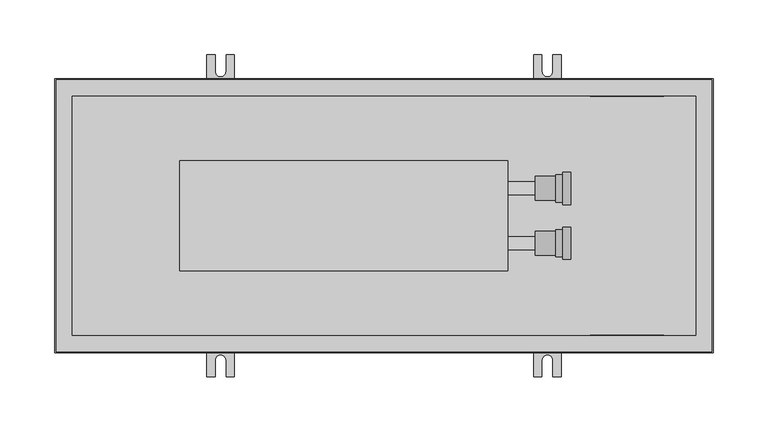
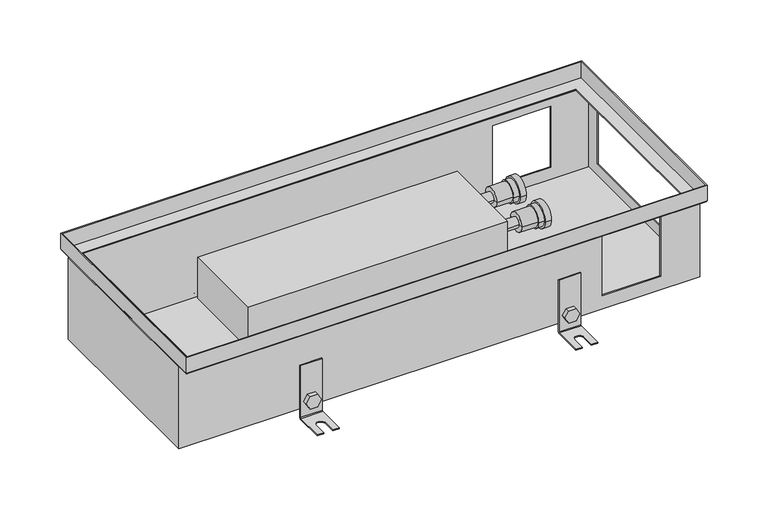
"""IFC4 building model written with IfcOpenShell, lengths in millimetres: proxy geometry, TECHNO_Конвектор встраиваемый_Usual_KVZ-250_85-105-120 : KVZ 250-120."""

from ifc_helpers import new_model, si_unit, point, frame, frame_2d, origin, place, context, project, spatial, polyline, circle_curve, ellipse_curve, trimmed, segment, composite_curve, outline, extrude, faceted_brep, source, transform, mapped, element, save
from ifc_brep_helpers import plane_surface, cylinder_surface, revolved_surface, advanced_brep


def mechanical_equipment_b3972e34(model_context):
    return source(origin(), model_context, "Body", "SolidModel", [
        extrude(outline(composite_curve([segment(trimmed(circle_curve(frame_2d((-110.5, 449.0)), 7.5), [point((-110.5, 441.5))], [point((-110.5, 456.5))], False, "CARTESIAN"), True, "CONTINUOUS"), segment(trimmed(circle_curve(frame_2d((-110.5, 449.0)), 7.5), [point((-110.5, 456.5))], [point((-110.5, 441.5))], False, "CARTESIAN"), True, "CONTINUOUS")], self_intersect=False)), frame((0.0, 110.2, 0.0), z_axis=(0.0, 1.0, 0.0), x_axis=(0.0, 0.0, 1.0)), (0.0, 0.0, 1.0), 1.5),
        extrude(outline(polyline([(-110.5, 440.339746), (-118.0, 444.669873), (-118.0, 453.330127), (-110.5, 457.660254), (-103.0, 453.330127), (-103.0, 444.669873), (-110.5, 440.339746)])), frame((0.0, 112.9, 0.0), z_axis=(0.0, 1.0, 0.0), x_axis=(0.0, 0.0, 1.0)), (0.0, 0.0, 1.0), 5.1),
        advanced_brep(
        [(461.5, 112.9, -65.5), (461.5, 111.7, -65.5), (461.5, 111.7, -128.5), (461.5, 113.7, -130.5), (461.5, 146.7, -130.5), (461.5, 146.7, -129.3), (461.5, 113.7, -129.3), (461.5, 112.9, -128.5), (436.5, 112.9, -65.5), (436.5, 112.9, -128.5), (436.5, 113.7, -129.3), (436.5, 146.7, -129.3), (436.5, 146.7, -130.5), (436.5, 113.7, -130.5), (436.5, 111.7, -128.5), (436.5, 111.7, -65.5), (454.0, 146.7, -129.3), (454.0, 131.7, -129.3), (444.0, 131.7, -129.3), (444.0, 146.7, -129.3), (444.0, 146.7, -130.5), (454.0, 146.7, -130.5), (444.0, 131.7, -130.5), (454.0, 131.7, -130.5)],
        [
            (0, 1),
            (1, 2),
            (2, 3, circle_curve(frame((461.5, 113.7, -128.5), z_axis=(1.0, 0.0, 0.0), x_axis=(0.0, 1.0, 0.0)), 2.0)),
            (3, 4),
            (4, 5),
            (5, 6),
            (6, 7, circle_curve(frame((461.5, 113.7, -128.5), z_axis=(-1.0, 0.0, 0.0), x_axis=(0.0, 1.0, 0.0)), 0.8)),
            (7, 0),
            (8, 9),
            (9, 10, circle_curve(frame((436.5, 113.7, -128.5), z_axis=(1.0, 0.0, 0.0), x_axis=(0.0, 1.0, 0.0)), 0.8)),
            (10, 11),
            (11, 12),
            (12, 13),
            (13, 14, circle_curve(frame((436.5, 113.7, -128.5), z_axis=(-1.0, 0.0, 0.0), x_axis=(0.0, 1.0, 0.0)), 2.0)),
            (14, 15),
            (15, 8),
            (7, 9),
            (8, 0),
            (6, 10),
            (5, 16),
            (16, 17),
            (17, 18, circle_curve(frame((449.0, 131.7, -129.3), z_axis=(0.0, 0.0, -1.0), x_axis=(1.0, 0.0, 0.0)), 5.0)),
            (18, 19),
            (19, 11),
            (19, 20),
            (20, 12),
            (4, 21),
            (21, 16),
            (3, 13),
            (20, 22),
            (22, 23, circle_curve(frame((449.0, 131.7, -130.5), z_axis=(0.0, 0.0, 1.0), x_axis=(1.0, 0.0, 0.0)), 5.0)),
            (23, 21),
            (2, 14),
            (1, 15),
            (18, 22),
            (23, 17),
        ],
        [
            plane_surface(frame((461.5, 112.9, -65.5), z_axis=(1.0, 0.0, 0.0), x_axis=(0.0, 0.0, -1.0))),
            plane_surface(frame((436.5, 112.9, -65.5), z_axis=(-1.0, 0.0, 0.0), x_axis=(0.0, 0.0, 1.0))),
            plane_surface(frame((461.5, 112.9, -65.5), z_axis=(0.0, 1.0, 0.0), x_axis=(-1.0, 0.0, 0.0))),
            revolved_surface(polyline([(436.5, 114.5, -128.5), (461.5, 114.5, -128.5)]), (436.5, 113.7, -128.5), (-1.0, 0.0, 0.0)),
            plane_surface(frame((461.5, 113.7, -129.3), z_axis=(0.0, 0.0, 1.0), x_axis=(-1.0, 0.0, 0.0))),
            plane_surface(frame((461.5, 146.7, -129.3), z_axis=(0.0, 1.0, 0.0), x_axis=(-1.0, 0.0, 0.0))),
            plane_surface(frame((461.5, 146.7, -130.5), z_axis=(0.0, 0.0, -1.0), x_axis=(-1.0, 0.0, 0.0))),
            cylinder_surface(frame((436.5, 113.7, -128.5), z_axis=(1.0, 0.0, 0.0), x_axis=(0.0, 1.0, 0.0)), 2.0),
            plane_surface(frame((461.5, 111.7, -128.5), z_axis=(0.0, -1.0, 0.0), x_axis=(-1.0, 0.0, 0.0))),
            plane_surface(frame((461.5, 111.7, -65.5), z_axis=(0.0, 0.0, 1.0), x_axis=(-1.0, 0.0, 0.0))),
            plane_surface(frame((444.0, 131.7, -129.3), z_axis=(1.0, 0.0, 0.0), x_axis=(0.0, 0.0, -1.0))),
            plane_surface(frame((454.0, 146.7, -129.3), z_axis=(-1.0, 0.0, 0.0), x_axis=(0.0, 0.0, -1.0))),
            revolved_surface(polyline([(454.0, 131.7, -129.3), (454.0, 131.7, -130.5)]), (449.0, 131.7, -130.5), (0.0, 0.0, 1.0)),
        ],
        [
            (0, [[1, 2, 3, 4, 5, 6, 7, 8]]),
            (1, [[9, 10, 11, 12, 13, 14, 15, 16]]),
            (2, [[17, -9, 18, -8]]),
            (3, [[19, -10, -17, -7]]),
            (4, [[20, 21, 22, 23, 24, -11, -19, -6]]),
            (5, [[-24, 25, 26, -12]]),
            (5, [[27, 28, -20, -5]]),
            (6, [[29, -13, -26, 30, 31, 32, -27, -4]]),
            (7, [[33, -14, -29, -3]]),
            (8, [[34, -15, -33, -2]]),
            (9, [[-18, -16, -34, -1]]),
            (10, [[-30, -25, -23, 35]]),
            (11, [[-21, -28, -32, 36]]),
            (12, [[-22, -36, -31, -35]]),
        ],
    ),
        extrude(outline(composite_curve([segment(trimmed(circle_curve(frame_2d((-110.5, 449.0)), 7.5), [point((-110.5, 441.5))], [point((-110.5, 456.5))], False, "CARTESIAN"), True, "CONTINUOUS"), segment(trimmed(circle_curve(frame_2d((-110.5, 449.0)), 7.5), [point((-110.5, 456.5))], [point((-110.5, 441.5))], False, "CARTESIAN"), True, "CONTINUOUS")], self_intersect=False)), frame((0.0, -111.7, 0.0), z_axis=(0.0, 1.0, 0.0), x_axis=(0.0, 0.0, 1.0)), (0.0, 0.0, 1.0), 1.5),
        extrude(outline(polyline([(-110.5, 440.339746), (-118.0, 444.669873), (-118.0, 453.330127), (-110.5, 457.660254), (-103.0, 453.330127), (-103.0, 444.669873), (-110.5, 440.339746)])), frame((0.0, -118.0, 0.0), z_axis=(0.0, 1.0, 0.0), x_axis=(0.0, 0.0, 1.0)), (0.0, 0.0, 1.0), 5.1),
        advanced_brep(
        [(461.5, -112.9, -65.5), (461.5, -112.9, -128.5), (461.5, -113.7, -129.3), (461.5, -146.7, -129.3), (461.5, -146.7, -130.5), (461.5, -113.7, -130.5), (461.5, -111.7, -128.5), (461.5, -111.7, -65.5), (436.5, -112.9, -65.5), (436.5, -111.7, -65.5), (436.5, -111.7, -128.5), (436.5, -113.7, -130.5), (436.5, -146.7, -130.5), (436.5, -146.7, -129.3), (436.5, -113.7, -129.3), (436.5, -112.9, -128.5), (444.0, -146.7, -129.3), (444.0, -131.7, -129.3), (454.0, -131.7, -129.3), (454.0, -146.7, -129.3), (454.0, -146.7, -130.5), (444.0, -146.7, -130.5), (454.0, -131.7, -130.5), (444.0, -131.7, -130.5)],
        [
            (0, 1),
            (1, 2, circle_curve(frame((461.5, -113.7, -128.5), z_axis=(-1.0, 0.0, 0.0), x_axis=(0.0, -1.0, 0.0)), 0.8)),
            (2, 3),
            (3, 4),
            (4, 5),
            (5, 6, circle_curve(frame((461.5, -113.7, -128.5), z_axis=(1.0, 0.0, 0.0), x_axis=(0.0, -1.0, 0.0)), 2.0)),
            (6, 7),
            (7, 0),
            (8, 9),
            (9, 10),
            (10, 11, circle_curve(frame((436.5, -113.7, -128.5), z_axis=(-1.0, 0.0, 0.0), x_axis=(0.0, -1.0, 0.0)), 2.0)),
            (11, 12),
            (12, 13),
            (13, 14),
            (14, 15, circle_curve(frame((436.5, -113.7, -128.5), z_axis=(1.0, 0.0, 0.0), x_axis=(0.0, -1.0, 0.0)), 0.8)),
            (15, 8),
            (0, 8),
            (15, 1),
            (14, 2),
            (13, 16),
            (16, 17),
            (17, 18, circle_curve(frame((449.0, -131.7, -129.3), z_axis=(0.0, 0.0, -1.0), x_axis=(1.0, 0.0, 0.0)), 5.0)),
            (18, 19),
            (19, 3),
            (19, 20),
            (20, 4),
            (12, 21),
            (21, 16),
            (20, 22),
            (22, 23, circle_curve(frame((449.0, -131.7, -130.5), z_axis=(0.0, 0.0, 1.0), x_axis=(1.0, 0.0, 0.0)), 5.0)),
            (23, 21),
            (11, 5),
            (10, 6),
            (9, 7),
            (23, 17),
            (18, 22),
        ],
        [
            plane_surface(frame((461.5, -112.9, -65.5), z_axis=(1.0, 0.0, 0.0), x_axis=(0.0, 0.0, -1.0))),
            plane_surface(frame((436.5, -112.9, -65.5), z_axis=(-1.0, 0.0, 0.0), x_axis=(0.0, 0.0, 1.0))),
            plane_surface(frame((461.5, -112.9, -65.5), z_axis=(0.0, -1.0, 0.0), x_axis=(-1.0, 0.0, 0.0))),
            revolved_surface(polyline([(436.5, -114.5, -128.5), (461.5, -114.5, -128.5)]), (436.5, -113.7, -128.5), (-1.0, 0.0, 0.0)),
            plane_surface(frame((461.5, -113.7, -129.3), z_axis=(0.0, 0.0, 1.0), x_axis=(-1.0, 0.0, 0.0))),
            plane_surface(frame((461.5, -146.7, -129.3), z_axis=(0.0, -1.0, 0.0), x_axis=(-1.0, 0.0, 0.0))),
            plane_surface(frame((461.5, -146.7, -130.5), z_axis=(0.0, 0.0, -1.0), x_axis=(-1.0, 0.0, 0.0))),
            cylinder_surface(frame((436.5, -113.7, -128.5), z_axis=(1.0, 0.0, 0.0), x_axis=(0.0, -1.0, 0.0)), 2.0),
            plane_surface(frame((461.5, -111.7, -128.5), z_axis=(0.0, 1.0, 0.0), x_axis=(-1.0, 0.0, 0.0))),
            plane_surface(frame((461.5, -111.7, -65.5), z_axis=(0.0, 0.0, 1.0), x_axis=(-1.0, 0.0, 0.0))),
            plane_surface(frame((444.0, -131.7, -129.3), z_axis=(1.0, 0.0, 0.0), x_axis=(0.0, 0.0, -1.0))),
            plane_surface(frame((454.0, -146.7, -129.3), z_axis=(-1.0, 0.0, 0.0), x_axis=(0.0, 0.0, -1.0))),
            revolved_surface(polyline([(454.0, -131.7, -129.3), (454.0, -131.7, -130.5)]), (449.0, -131.7, -130.5), (0.0, 0.0, 1.0)),
        ],
        [
            (0, [[1, 2, 3, 4, 5, 6, 7, 8]]),
            (1, [[9, 10, 11, 12, 13, 14, 15, 16]]),
            (2, [[-1, 17, -16, 18]]),
            (3, [[-2, -18, -15, 19]]),
            (4, [[-3, -19, -14, 20, 21, 22, 23, 24]]),
            (5, [[-4, -24, 25, 26]]),
            (5, [[-13, 27, 28, -20]]),
            (6, [[-5, -26, 29, 30, 31, -27, -12, 32]]),
            (7, [[-6, -32, -11, 33]]),
            (8, [[-7, -33, -10, 34]]),
            (9, [[-8, -34, -9, -17]]),
            (10, [[35, -21, -28, -31]]),
            (11, [[36, -29, -25, -23]]),
            (12, [[-35, -30, -36, -22]]),
        ],
    ),
        extrude(outline(composite_curve([segment(trimmed(circle_curve(frame_2d((-110.5, 151.0)), 7.5), [point((-110.5, 143.5))], [point((-110.5, 158.5))], False, "CARTESIAN"), True, "CONTINUOUS"), segment(trimmed(circle_curve(frame_2d((-110.5, 151.0)), 7.5), [point((-110.5, 158.5))], [point((-110.5, 143.5))], False, "CARTESIAN"), True, "CONTINUOUS")], self_intersect=False)), frame((0.0, 110.2, 0.0), z_axis=(0.0, 1.0, 0.0), x_axis=(0.0, 0.0, 1.0)), (0.0, 0.0, 1.0), 1.5),
        extrude(outline(polyline([(-110.5, 142.339746), (-118.0, 146.669873), (-118.0, 155.330127), (-110.5, 159.660254), (-103.0, 155.330127), (-103.0, 146.669873), (-110.5, 142.339746)])), frame((0.0, 112.9, 0.0), z_axis=(0.0, 1.0, 0.0), x_axis=(0.0, 0.0, 1.0)), (0.0, 0.0, 1.0), 5.1),
        advanced_brep(
        [(163.5, 112.9, -65.5), (163.5, 111.7, -65.5), (163.5, 111.7, -128.5), (163.5, 113.7, -130.5), (163.5, 146.7, -130.5), (163.5, 146.7, -129.3), (163.5, 113.7, -129.3), (163.5, 112.9, -128.5), (138.5, 112.9, -65.5), (138.5, 112.9, -128.5), (138.5, 113.7, -129.3), (138.5, 146.7, -129.3), (138.5, 146.7, -130.5), (138.5, 113.7, -130.5), (138.5, 111.7, -128.5), (138.5, 111.7, -65.5), (156.0, 146.7, -129.3), (156.0, 131.7, -129.3), (146.0, 131.7, -129.3), (146.0, 146.7, -129.3), (146.0, 146.7, -130.5), (156.0, 146.7, -130.5), (146.0, 131.7, -130.5), (156.0, 131.7, -130.5)],
        [
            (0, 1),
            (1, 2),
            (2, 3, circle_curve(frame((163.5, 113.7, -128.5), z_axis=(1.0, 0.0, 0.0), x_axis=(0.0, 1.0, 0.0)), 2.0)),
            (3, 4),
            (4, 5),
            (5, 6),
            (6, 7, circle_curve(frame((163.5, 113.7, -128.5), z_axis=(-1.0, 0.0, 0.0), x_axis=(0.0, 1.0, 0.0)), 0.8)),
            (7, 0),
            (8, 9),
            (9, 10, circle_curve(frame((138.5, 113.7, -128.5), z_axis=(1.0, 0.0, 0.0), x_axis=(0.0, 1.0, 0.0)), 0.8)),
            (10, 11),
            (11, 12),
            (12, 13),
            (13, 14, circle_curve(frame((138.5, 113.7, -128.5), z_axis=(-1.0, 0.0, 0.0), x_axis=(0.0, 1.0, 0.0)), 2.0)),
            (14, 15),
            (15, 8),
            (7, 9),
            (8, 0),
            (6, 10),
            (5, 16),
            (16, 17),
            (17, 18, circle_curve(frame((151.0, 131.7, -129.3), z_axis=(0.0, 0.0, -1.0), x_axis=(1.0, 0.0, 0.0)), 5.0)),
            (18, 19),
            (19, 11),
            (19, 20),
            (20, 12),
            (4, 21),
            (21, 16),
            (3, 13),
            (20, 22),
            (22, 23, circle_curve(frame((151.0, 131.7, -130.5), z_axis=(0.0, 0.0, 1.0), x_axis=(1.0, 0.0, 0.0)), 5.0)),
            (23, 21),
            (2, 14),
            (1, 15),
            (18, 22),
            (23, 17),
        ],
        [
            plane_surface(frame((163.5, 112.9, -65.5), z_axis=(1.0, 0.0, 0.0), x_axis=(0.0, 0.0, -1.0))),
            plane_surface(frame((138.5, 112.9, -65.5), z_axis=(-1.0, 0.0, 0.0), x_axis=(0.0, 0.0, 1.0))),
            plane_surface(frame((163.5, 112.9, -65.5), z_axis=(0.0, 1.0, 0.0), x_axis=(-1.0, 0.0, 0.0))),
            revolved_surface(polyline([(138.5, 114.5, -128.5), (163.5, 114.5, -128.5)]), (138.5, 113.7, -128.5), (-1.0, 0.0, 0.0)),
            plane_surface(frame((163.5, 113.7, -129.3), z_axis=(0.0, 0.0, 1.0), x_axis=(-1.0, 0.0, 0.0))),
            plane_surface(frame((163.5, 146.7, -129.3), z_axis=(0.0, 1.0, 0.0), x_axis=(-1.0, 0.0, 0.0))),
            plane_surface(frame((163.5, 146.7, -130.5), z_axis=(0.0, 0.0, -1.0), x_axis=(-1.0, 0.0, 0.0))),
            cylinder_surface(frame((138.5, 113.7, -128.5), z_axis=(1.0, 0.0, 0.0), x_axis=(0.0, 1.0, 0.0)), 2.0),
            plane_surface(frame((163.5, 111.7, -128.5), z_axis=(0.0, -1.0, 0.0), x_axis=(-1.0, 0.0, 0.0))),
            plane_surface(frame((163.5, 111.7, -65.5), z_axis=(0.0, 0.0, 1.0), x_axis=(-1.0, 0.0, 0.0))),
            plane_surface(frame((146.0, 131.7, -129.3), z_axis=(1.0, 0.0, 0.0), x_axis=(0.0, 0.0, -1.0))),
            plane_surface(frame((156.0, 146.7, -129.3), z_axis=(-1.0, 0.0, 0.0), x_axis=(0.0, 0.0, -1.0))),
            revolved_surface(polyline([(156.0, 131.7, -129.3), (156.0, 131.7, -130.5)]), (151.0, 131.7, -130.5), (0.0, 0.0, 1.0)),
        ],
        [
            (0, [[1, 2, 3, 4, 5, 6, 7, 8]]),
            (1, [[9, 10, 11, 12, 13, 14, 15, 16]]),
            (2, [[17, -9, 18, -8]]),
            (3, [[19, -10, -17, -7]]),
            (4, [[20, 21, 22, 23, 24, -11, -19, -6]]),
            (5, [[-24, 25, 26, -12]]),
            (5, [[27, 28, -20, -5]]),
            (6, [[29, -13, -26, 30, 31, 32, -27, -4]]),
            (7, [[33, -14, -29, -3]]),
            (8, [[34, -15, -33, -2]]),
            (9, [[-18, -16, -34, -1]]),
            (10, [[-30, -25, -23, 35]]),
            (11, [[-21, -28, -32, 36]]),
            (12, [[-22, -36, -31, -35]]),
        ],
    ),
        extrude(outline(composite_curve([segment(trimmed(circle_curve(frame_2d((-110.5, 151.0)), 7.5), [point((-110.5, 143.5))], [point((-110.5, 158.5))], False, "CARTESIAN"), True, "CONTINUOUS"), segment(trimmed(circle_curve(frame_2d((-110.5, 151.0)), 7.5), [point((-110.5, 158.5))], [point((-110.5, 143.5))], False, "CARTESIAN"), True, "CONTINUOUS")], self_intersect=False)), frame((0.0, -111.7, 0.0), z_axis=(0.0, 1.0, 0.0), x_axis=(0.0, 0.0, 1.0)), (0.0, 0.0, 1.0), 1.5),
        extrude(outline(polyline([(-110.5, 142.339746), (-118.0, 146.669873), (-118.0, 155.330127), (-110.5, 159.660254), (-103.0, 155.330127), (-103.0, 146.669873), (-110.5, 142.339746)])), frame((0.0, -118.0, 0.0), z_axis=(0.0, 1.0, 0.0), x_axis=(0.0, 0.0, 1.0)), (0.0, 0.0, 1.0), 5.1),
        advanced_brep(
        [(163.5, -112.9, -65.5), (163.5, -112.9, -128.5), (163.5, -113.7, -129.3), (163.5, -146.7, -129.3), (163.5, -146.7, -130.5), (163.5, -113.7, -130.5), (163.5, -111.7, -128.5), (163.5, -111.7, -65.5), (138.5, -112.9, -65.5), (138.5, -111.7, -65.5), (138.5, -111.7, -128.5), (138.5, -113.7, -130.5), (138.5, -146.7, -130.5), (138.5, -146.7, -129.3), (138.5, -113.7, -129.3), (138.5, -112.9, -128.5), (146.0, -146.7, -129.3), (146.0, -131.7, -129.3), (156.0, -131.7, -129.3), (156.0, -146.7, -129.3), (156.0, -146.7, -130.5), (146.0, -146.7, -130.5), (156.0, -131.7, -130.5), (146.0, -131.7, -130.5)],
        [
            (0, 1),
            (1, 2, circle_curve(frame((163.5, -113.7, -128.5), z_axis=(-1.0, 0.0, 0.0), x_axis=(0.0, -1.0, 0.0)), 0.8)),
            (2, 3),
            (3, 4),
            (4, 5),
            (5, 6, circle_curve(frame((163.5, -113.7, -128.5), z_axis=(1.0, 0.0, 0.0), x_axis=(0.0, -1.0, 0.0)), 2.0)),
            (6, 7),
            (7, 0),
            (8, 9),
            (9, 10),
            (10, 11, circle_curve(frame((138.5, -113.7, -128.5), z_axis=(-1.0, 0.0, 0.0), x_axis=(0.0, -1.0, 0.0)), 2.0)),
            (11, 12),
            (12, 13),
            (13, 14),
            (14, 15, circle_curve(frame((138.5, -113.7, -128.5), z_axis=(1.0, 0.0, 0.0), x_axis=(0.0, -1.0, 0.0)), 0.8)),
            (15, 8),
            (0, 8),
            (15, 1),
            (14, 2),
            (13, 16),
            (16, 17),
            (17, 18, circle_curve(frame((151.0, -131.7, -129.3), z_axis=(0.0, 0.0, -1.0), x_axis=(1.0, 0.0, 0.0)), 5.0)),
            (18, 19),
            (19, 3),
            (19, 20),
            (20, 4),
            (12, 21),
            (21, 16),
            (20, 22),
            (22, 23, circle_curve(frame((151.0, -131.7, -130.5), z_axis=(0.0, 0.0, 1.0), x_axis=(1.0, 0.0, 0.0)), 5.0)),
            (23, 21),
            (11, 5),
            (10, 6),
            (9, 7),
            (23, 17),
            (18, 22),
        ],
        [
            plane_surface(frame((163.5, -112.9, -65.5), z_axis=(1.0, 0.0, 0.0), x_axis=(0.0, 0.0, -1.0))),
            plane_surface(frame((138.5, -112.9, -65.5), z_axis=(-1.0, 0.0, 0.0), x_axis=(0.0, 0.0, 1.0))),
            plane_surface(frame((163.5, -112.9, -65.5), z_axis=(0.0, -1.0, 0.0), x_axis=(-1.0, 0.0, 0.0))),
            revolved_surface(polyline([(138.5, -114.5, -128.5), (163.5, -114.5, -128.5)]), (138.5, -113.7, -128.5), (-1.0, 0.0, 0.0)),
            plane_surface(frame((163.5, -113.7, -129.3), z_axis=(0.0, 0.0, 1.0), x_axis=(-1.0, 0.0, 0.0))),
            plane_surface(frame((163.5, -146.7, -129.3), z_axis=(0.0, -1.0, 0.0), x_axis=(-1.0, 0.0, 0.0))),
            plane_surface(frame((163.5, -146.7, -130.5), z_axis=(0.0, 0.0, -1.0), x_axis=(-1.0, 0.0, 0.0))),
            cylinder_surface(frame((138.5, -113.7, -128.5), z_axis=(1.0, 0.0, 0.0), x_axis=(0.0, -1.0, 0.0)), 2.0),
            plane_surface(frame((163.5, -111.7, -128.5), z_axis=(0.0, 1.0, 0.0), x_axis=(-1.0, 0.0, 0.0))),
            plane_surface(frame((163.5, -111.7, -65.5), z_axis=(0.0, 0.0, 1.0), x_axis=(-1.0, 0.0, 0.0))),
            plane_surface(frame((146.0, -131.7, -129.3), z_axis=(1.0, 0.0, 0.0), x_axis=(0.0, 0.0, -1.0))),
            plane_surface(frame((156.0, -146.7, -129.3), z_axis=(-1.0, 0.0, 0.0), x_axis=(0.0, 0.0, -1.0))),
            revolved_surface(polyline([(156.0, -131.7, -129.3), (156.0, -131.7, -130.5)]), (151.0, -131.7, -130.5), (0.0, 0.0, 1.0)),
        ],
        [
            (0, [[1, 2, 3, 4, 5, 6, 7, 8]]),
            (1, [[9, 10, 11, 12, 13, 14, 15, 16]]),
            (2, [[-1, 17, -16, 18]]),
            (3, [[-2, -18, -15, 19]]),
            (4, [[-3, -19, -14, 20, 21, 22, 23, 24]]),
            (5, [[-4, -24, 25, 26]]),
            (5, [[-13, 27, 28, -20]]),
            (6, [[-5, -26, 29, 30, 31, -27, -12, 32]]),
            (7, [[-6, -32, -11, 33]]),
            (8, [[-7, -33, -10, 34]]),
            (9, [[-8, -34, -9, -17]]),
            (10, [[35, -21, -28, -31]]),
            (11, [[36, -29, -25, -23]]),
            (12, [[-35, -30, -36, -22]]),
        ],
    ),
        extrude(outline(polyline([(413.0, 50.0), (413.0, -50.0), (114.0, -50.0), (114.0, 50.0), (413.0, 50.0)])), frame((0.0, 0.0, -73.5), z_axis=(0.0, 0.0, 1.0), x_axis=(1.0, 0.0, 0.0)), (0.0, 0.0, 1.0), 50.0),
        advanced_brep(
        [(438.0, 25.0, -48.5), (438.0, 36.0, -48.5), (438.0, 14.0, -48.5), (456.5, 36.0, -48.5), (456.5, 14.0, -48.5), (456.5, 37.5, -48.5), (456.5, 12.5, -48.5), (463.0, 37.5, -48.5), (463.0, 12.5, -48.5), (463.0, 39.7, -48.5), (463.0, 10.3, -48.5), (470.0, 39.7, -48.5), (470.0, 10.3, -48.5), (470.0, 25.0, -48.5)],
        [
            (0, 1),
            (1, 2, circle_curve(frame((438.0, 25.0, -48.5), z_axis=(-1.0, 0.0, 0.0), x_axis=(0.0, 1.0, 0.0)), 11.0)),
            (2, 0),
            (2, 1, circle_curve(frame((438.0, 25.0, -48.5), z_axis=(-1.0, 0.0, 0.0), x_axis=(0.0, 1.0, 0.0)), 11.0)),
            (1, 3),
            (3, 4, circle_curve(frame((456.5, 25.0, -48.5), z_axis=(-1.0, 0.0, 0.0), x_axis=(0.0, 1.0, 0.0)), 11.0)),
            (4, 2),
            (4, 3, circle_curve(frame((456.5, 25.0, -48.5), z_axis=(-1.0, 0.0, 0.0), x_axis=(0.0, 1.0, 0.0)), 11.0)),
            (3, 5),
            (5, 6, circle_curve(frame((456.5, 25.0, -48.5), z_axis=(-1.0, 0.0, 0.0), x_axis=(0.0, 1.0, 0.0)), 12.5)),
            (6, 4),
            (6, 5, circle_curve(frame((456.5, 25.0, -48.5), z_axis=(-1.0, 0.0, 0.0), x_axis=(0.0, 1.0, 0.0)), 12.5)),
            (5, 7),
            (7, 8, circle_curve(frame((463.0, 25.0, -48.5), z_axis=(-1.0, 0.0, 0.0), x_axis=(0.0, 1.0, 0.0)), 12.5)),
            (8, 6),
            (8, 7, circle_curve(frame((463.0, 25.0, -48.5), z_axis=(-1.0, 0.0, 0.0), x_axis=(0.0, 1.0, 0.0)), 12.5)),
            (7, 9),
            (9, 10, circle_curve(frame((463.0, 25.0, -48.5), z_axis=(-1.0, 0.0, 0.0), x_axis=(0.0, 1.0, 0.0)), 14.7)),
            (10, 8),
            (10, 9, circle_curve(frame((463.0, 25.0, -48.5), z_axis=(-1.0, 0.0, 0.0), x_axis=(0.0, 1.0, 0.0)), 14.7)),
            (9, 11),
            (11, 12, circle_curve(frame((470.0, 25.0, -48.5), z_axis=(-1.0, 0.0, 0.0), x_axis=(0.0, 1.0, 0.0)), 14.7)),
            (12, 10),
            (12, 11, circle_curve(frame((470.0, 25.0, -48.5), z_axis=(-1.0, 0.0, 0.0), x_axis=(0.0, 1.0, 0.0)), 14.7)),
            (11, 13),
            (13, 12),
        ],
        [
            plane_surface(frame((438.0, 25.0, -48.5), z_axis=(-1.0, 0.0, 0.0), x_axis=(0.0, 1.0, 0.0))),
            cylinder_surface(frame((470.0, 25.0, -48.5), z_axis=(-1.0, 0.0, 0.0), x_axis=(0.0, 1.0, 0.0)), 11.0),
            plane_surface(frame((456.5, 25.0, -48.5), z_axis=(-1.0, 0.0, 0.0), x_axis=(0.0, 1.0, 0.0))),
            cylinder_surface(frame((470.0, 25.0, -48.5), z_axis=(-1.0, 0.0, 0.0), x_axis=(0.0, 1.0, 0.0)), 12.5),
            plane_surface(frame((463.0, 25.0, -48.5), z_axis=(-1.0, 0.0, 0.0), x_axis=(0.0, 1.0, 0.0))),
            cylinder_surface(frame((470.0, 25.0, -48.5), z_axis=(-1.0, 0.0, 0.0), x_axis=(0.0, 1.0, 0.0)), 14.7),
            plane_surface(frame((470.0, 25.0, -48.5), z_axis=(1.0, 0.0, 0.0), x_axis=(0.0, 1.0, 0.0))),
        ],
        [
            (0, [[1, 2, 3]]),
            (0, [[-3, 4, -1]]),
            (1, [[-2, 5, 6, 7]]),
            (1, [[-4, -7, 8, -5]]),
            (2, [[-6, 9, 10, 11]]),
            (2, [[-8, -11, 12, -9]]),
            (3, [[-10, 13, 14, 15]]),
            (3, [[-12, -15, 16, -13]]),
            (4, [[-14, 17, 18, 19]]),
            (4, [[-16, -19, 20, -17]]),
            (5, [[-18, 21, 22, 23]]),
            (5, [[-20, -23, 24, -21]]),
            (6, [[-22, 25, 26]]),
            (6, [[-24, -26, -25]]),
        ],
    ),
        advanced_brep(
        [(438.0, -25.0, -48.5), (438.0, -14.0, -48.5), (438.0, -36.0, -48.5), (456.5, -14.0, -48.5), (456.5, -36.0, -48.5), (456.5, -12.5, -48.5), (456.5, -37.5, -48.5), (463.0, -12.5, -48.5), (463.0, -37.5, -48.5), (463.0, -10.3, -48.5), (463.0, -39.7, -48.5), (470.0, -10.3, -48.5), (470.0, -39.7, -48.5), (470.0, -25.0, -48.5)],
        [
            (0, 1),
            (1, 2, circle_curve(frame((438.0, -25.0, -48.5), z_axis=(-1.0, 0.0, 0.0), x_axis=(0.0, 1.0, 0.0)), 11.0)),
            (2, 0),
            (2, 1, circle_curve(frame((438.0, -25.0, -48.5), z_axis=(-1.0, 0.0, 0.0), x_axis=(0.0, 1.0, 0.0)), 11.0)),
            (1, 3),
            (3, 4, circle_curve(frame((456.5, -25.0, -48.5), z_axis=(-1.0, 0.0, 0.0), x_axis=(0.0, 1.0, 0.0)), 11.0)),
            (4, 2),
            (4, 3, circle_curve(frame((456.5, -25.0, -48.5), z_axis=(-1.0, 0.0, 0.0), x_axis=(0.0, 1.0, 0.0)), 11.0)),
            (3, 5),
            (5, 6, circle_curve(frame((456.5, -25.0, -48.5), z_axis=(-1.0, 0.0, 0.0), x_axis=(0.0, 1.0, 0.0)), 12.5)),
            (6, 4),
            (6, 5, circle_curve(frame((456.5, -25.0, -48.5), z_axis=(-1.0, 0.0, 0.0), x_axis=(0.0, 1.0, 0.0)), 12.5)),
            (5, 7),
            (7, 8, circle_curve(frame((463.0, -25.0, -48.5), z_axis=(-1.0, 0.0, 0.0), x_axis=(0.0, 1.0, 0.0)), 12.5)),
            (8, 6),
            (8, 7, circle_curve(frame((463.0, -25.0, -48.5), z_axis=(-1.0, 0.0, 0.0), x_axis=(0.0, 1.0, 0.0)), 12.5)),
            (7, 9),
            (9, 10, circle_curve(frame((463.0, -25.0, -48.5), z_axis=(-1.0, 0.0, 0.0), x_axis=(0.0, 1.0, 0.0)), 14.7)),
            (10, 8),
            (10, 9, circle_curve(frame((463.0, -25.0, -48.5), z_axis=(-1.0, 0.0, 0.0), x_axis=(0.0, 1.0, 0.0)), 14.7)),
            (9, 11),
            (11, 12, circle_curve(frame((470.0, -25.0, -48.5), z_axis=(-1.0, 0.0, 0.0), x_axis=(0.0, 1.0, 0.0)), 14.7)),
            (12, 10),
            (12, 11, circle_curve(frame((470.0, -25.0, -48.5), z_axis=(-1.0, 0.0, 0.0), x_axis=(0.0, 1.0, 0.0)), 14.7)),
            (11, 13),
            (13, 12),
        ],
        [
            plane_surface(frame((438.0, -25.0, -48.5), z_axis=(-1.0, 0.0, 0.0), x_axis=(0.0, 1.0, 0.0))),
            cylinder_surface(frame((470.0, -25.0, -48.5), z_axis=(-1.0, 0.0, 0.0), x_axis=(0.0, 1.0, 0.0)), 11.0),
            plane_surface(frame((456.5, -25.0, -48.5), z_axis=(-1.0, 0.0, 0.0), x_axis=(0.0, 1.0, 0.0))),
            cylinder_surface(frame((470.0, -25.0, -48.5), z_axis=(-1.0, 0.0, 0.0), x_axis=(0.0, 1.0, 0.0)), 12.5),
            plane_surface(frame((463.0, -25.0, -48.5), z_axis=(-1.0, 0.0, 0.0), x_axis=(0.0, 1.0, 0.0))),
            cylinder_surface(frame((470.0, -25.0, -48.5), z_axis=(-1.0, 0.0, 0.0), x_axis=(0.0, 1.0, 0.0)), 14.7),
            plane_surface(frame((470.0, -25.0, -48.5), z_axis=(1.0, 0.0, 0.0), x_axis=(0.0, 1.0, 0.0))),
        ],
        [
            (0, [[1, 2, 3]]),
            (0, [[-3, 4, -1]]),
            (1, [[-2, 5, 6, 7]]),
            (1, [[-4, -7, 8, -5]]),
            (2, [[-6, 9, 10, 11]]),
            (2, [[-8, -11, 12, -9]]),
            (3, [[-10, 13, 14, 15]]),
            (3, [[-12, -15, 16, -13]]),
            (4, [[-14, 17, 18, 19]]),
            (4, [[-16, -19, 20, -17]]),
            (5, [[-18, 21, 22, 23]]),
            (5, [[-20, -23, 24, -21]]),
            (6, [[-22, 25, 26]]),
            (6, [[-24, -26, -25]]),
        ],
    ),
        extrude(outline(composite_curve([segment(trimmed(circle_curve(frame_2d((25.0, -48.5)), 6.0), [point((19.0, -48.5))], [point((31.0, -48.5))], False, "CARTESIAN"), True, "CONTINUOUS"), segment(trimmed(circle_curve(frame_2d((25.0, -48.5)), 6.0), [point((31.0, -48.5))], [point((19.0, -48.5))], False, "CARTESIAN"), True, "CONTINUOUS")], self_intersect=False)), frame((413.0, 0.0, 0.0), z_axis=(1.0, 0.0, 0.0), x_axis=(0.0, 1.0, 0.0)), (0.0, 0.0, 1.0), 25.0),
        extrude(outline(composite_curve([segment(trimmed(circle_curve(frame_2d((-25.0, -48.5)), 6.0), [point((-31.0, -48.5))], [point((-19.0, -48.5))], False, "CARTESIAN"), True, "CONTINUOUS"), segment(trimmed(circle_curve(frame_2d((-25.0, -48.5)), 6.0), [point((-19.0, -48.5))], [point((-31.0, -48.5))], False, "CARTESIAN"), True, "CONTINUOUS")], self_intersect=False)), frame((413.0, 0.0, 0.0), z_axis=(1.0, 0.0, 0.0), x_axis=(0.0, 1.0, 0.0)), (0.0, 0.0, 1.0), 25.0),
        faceted_brep([(598.8, -109.0, -118.8), (598.8, 109.0, -118.8), (1.2, 109.0, -118.8), (1.2, -109.0, -118.8), (0.0, -110.2, -120.0), (0.0, 110.2, -120.0), (600.0, 110.2, -120.0), (600.0, -110.2, -120.0), (600.0, -110.2, -20.5), (0.0, -110.2, -20.5), (488.0, -110.2, -30.0), (555.0, -110.2, -30.0), (555.0, -110.2, -104.0), (488.0, -110.2, -104.0), (600.0, 110.2, -20.5), (600.0, 92.0, -23.0), (600.0, 92.0, -105.0), (600.0, -92.0, -105.0), (600.0, -92.0, -23.0), (0.0, 110.2, -20.5), (555.0, 110.2, -30.0), (488.0, 110.2, -30.0), (488.0, 110.2, -104.0), (555.0, 110.2, -104.0), (598.8, -109.0, -20.5), (598.8, 109.0, -20.5), (598.8, 92.0, -105.0), (598.8, 92.0, -23.0), (598.8, -92.0, -23.0), (598.8, -92.0, -105.0), (1.2, -109.0, -20.5), (555.0, -109.0, -30.0), (488.0, -109.0, -30.0), (488.0, -109.0, -104.0), (555.0, -109.0, -104.0), (1.2, 109.0, -20.5), (488.0, 109.0, -30.0), (555.0, 109.0, -30.0), (555.0, 109.0, -104.0), (488.0, 109.0, -104.0)], [[[0, 1, 2, 3]], [[4, 5, 6, 7]], [[4, 7, 8, 9], [10, 11, 12, 13]], [[7, 6, 14, 8], [15, 16, 17, 18]], [[6, 5, 19, 14], [20, 21, 22, 23]], [[5, 4, 9, 19]], [[24, 25, 1, 0], [26, 27, 28, 29]], [[30, 24, 0, 3], [31, 32, 33, 34]], [[35, 30, 3, 2]], [[25, 35, 2, 1], [36, 37, 38, 39]], [[8, 14, 19, 9], [25, 24, 30, 35]], [[31, 11, 10, 32]], [[20, 37, 36, 21]], [[32, 10, 13, 33]], [[21, 36, 39, 22]], [[33, 13, 12, 34]], [[22, 39, 38, 23]], [[11, 31, 34, 12]], [[37, 20, 23, 38]], [[15, 27, 26, 16]], [[27, 15, 18, 28]], [[28, 18, 17, 29]], [[16, 26, 29, 17]]]),
        advanced_brep(
        [(584.0, 109.0, -19.3), (584.0, 109.0, -20.5), (584.0, -109.0, -20.5), (584.0, -109.0, -19.3), (598.8, 123.8, 0.0), (598.8, 123.8, -19.3), (598.8, -123.8, -19.3), (598.8, -123.8, 0.0), (600.0, 125.0, -18.5), (600.0, 125.0, 0.0), (600.0, -125.0, 0.0), (600.0, -125.0, -18.5), (16.0, -109.0, -20.5), (16.0, -109.0, -19.3), (1.2, -123.8, -19.3), (1.2, -123.8, 0.0), (0.0, -125.0, 0.0), (0.0, -125.0, -18.5), (16.0, 109.0, -20.5), (16.0, 109.0, -19.3), (1.2, 123.8, -19.3), (1.2, 123.8, 0.0), (0.0, 125.0, 0.0), (0.0, 125.0, -18.5), (598.0, -123.0, -20.5), (2.0, -123.0, -20.5), (2.0, 123.0, -20.5), (598.0, 123.0, -20.5)],
        [
            (0, 1),
            (1, 2),
            (2, 3),
            (3, 0),
            (4, 5),
            (5, 6),
            (6, 7),
            (7, 4),
            (8, 9),
            (9, 10),
            (10, 11),
            (11, 8),
            (2, 12),
            (12, 13),
            (13, 3),
            (6, 14),
            (14, 15),
            (15, 7),
            (10, 16),
            (16, 17),
            (17, 11),
            (12, 18),
            (18, 19),
            (19, 13),
            (14, 20),
            (20, 21),
            (21, 15),
            (16, 22),
            (22, 23),
            (23, 17),
            (24, 25),
            (25, 26),
            (26, 27),
            (27, 24),
            (1, 18),
            (0, 19),
            (5, 20),
            (4, 21),
            (9, 22),
            (8, 23),
            (27, 8, ellipse_curve(frame((598.0, 123.0, -18.5), z_axis=(0.7071067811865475, -0.7071067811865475, 0.0), x_axis=(0.7071067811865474, 0.7071067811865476, 0.0)), 2.8284271, 2.0)),
            (11, 24, ellipse_curve(frame((598.0, -123.0, -18.5), z_axis=(0.7071067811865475, 0.7071067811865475, 0.0), x_axis=(-0.7071067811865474, 0.7071067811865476, 0.0)), 2.8284271, 2.0)),
            (17, 25, ellipse_curve(frame((2.0, -123.0, -18.5), z_axis=(0.7071067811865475, -0.7071067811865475, 0.0), x_axis=(0.7071067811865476, 0.7071067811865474, 0.0)), 2.8284271, 2.0)),
            (23, 26, ellipse_curve(frame((2.0, 123.0, -18.5), z_axis=(-0.7071067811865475, -0.7071067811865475, 0.0), x_axis=(0.7071067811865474, -0.7071067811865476, 0.0)), 2.8284271, 2.0)),
        ],
        [
            plane_surface(frame((584.0, 109.0, -20.5), z_axis=(-1.0, 0.0, 0.0), x_axis=(0.0, -1.0, 0.0))),
            plane_surface(frame((598.8, 123.8, -19.3), z_axis=(-1.0, 0.0, 0.0), x_axis=(0.0, -1.0, 0.0))),
            plane_surface(frame((600.0, 125.0, 0.0), z_axis=(1.0, 0.0, 0.0), x_axis=(0.0, -1.0, 0.0))),
            plane_surface(frame((584.0, -109.0, -20.5), z_axis=(0.0, 1.0, 0.0), x_axis=(-1.0, 0.0, 0.0))),
            plane_surface(frame((598.8, -123.8, -19.3), z_axis=(0.0, 1.0, 0.0), x_axis=(-1.0, 0.0, 0.0))),
            plane_surface(frame((600.0, -125.0, 0.0), z_axis=(0.0, -1.0, 0.0), x_axis=(-1.0, 0.0, 0.0))),
            plane_surface(frame((16.0, -109.0, -20.5), z_axis=(1.0, 0.0, 0.0), x_axis=(0.0, 1.0, 0.0))),
            plane_surface(frame((1.2, -123.8, -19.3), z_axis=(1.0, 0.0, 0.0), x_axis=(0.0, 1.0, 0.0))),
            plane_surface(frame((0.0, -125.0, 0.0), z_axis=(-1.0, 0.0, 0.0), x_axis=(0.0, 1.0, 0.0))),
            plane_surface(frame((2.0, 123.0, -20.5), z_axis=(0.0, 0.0, -1.0), x_axis=(1.0, 0.0, 0.0))),
            plane_surface(frame((16.0, 109.0, -20.5), z_axis=(0.0, -1.0, 0.0), x_axis=(1.0, 0.0, 0.0))),
            plane_surface(frame((16.0, 109.0, -19.3), z_axis=(0.0, 0.0, 1.0), x_axis=(1.0, 0.0, 0.0))),
            plane_surface(frame((1.2, 123.8, -19.3), z_axis=(0.0, -1.0, 0.0), x_axis=(1.0, 0.0, 0.0))),
            plane_surface(frame((1.2, 123.8, 0.0), z_axis=(0.0, 0.0, 1.0), x_axis=(1.0, 0.0, 0.0))),
            plane_surface(frame((0.0, 125.0, 0.0), z_axis=(0.0, 1.0, 0.0), x_axis=(1.0, 0.0, 0.0))),
            cylinder_surface(frame((598.0, 125.0, -18.5), z_axis=(0.0, 1.0, 0.0), x_axis=(1.0, 0.0, 0.0)), 2.0),
            cylinder_surface(frame((600.0, -123.0, -18.5), z_axis=(1.0, 0.0, 0.0), x_axis=(0.0, -1.0, 0.0)), 2.0),
            cylinder_surface(frame((2.0, -125.0, -18.5), z_axis=(0.0, -1.0, 0.0), x_axis=(-1.0, 0.0, 0.0)), 2.0),
            cylinder_surface(frame((0.0, 123.0, -18.5), z_axis=(-1.0, 0.0, 0.0), x_axis=(0.0, 1.0, 0.0)), 2.0),
        ],
        [
            (0, [[1, 2, 3, 4]]),
            (1, [[5, 6, 7, 8]]),
            (2, [[9, 10, 11, 12]]),
            (3, [[-3, 13, 14, 15]]),
            (4, [[-7, 16, 17, 18]]),
            (5, [[-11, 19, 20, 21]]),
            (6, [[-14, 22, 23, 24]]),
            (7, [[-17, 25, 26, 27]]),
            (8, [[-20, 28, 29, 30]]),
            (9, [[31, 32, 33, 34], [35, -22, -13, -2]]),
            (10, [[-23, -35, -1, 36]]),
            (11, [[37, -25, -16, -6], [-15, -24, -36, -4]]),
            (12, [[-26, -37, -5, 38]]),
            (13, [[39, -28, -19, -10], [-18, -27, -38, -8]]),
            (14, [[-29, -39, -9, 40]]),
            (15, [[41, -12, 42, -34]]),
            (16, [[-42, -21, 43, -31]]),
            (17, [[-43, -30, 44, -32]]),
            (18, [[-44, -40, -41, -33]]),
        ],
    ),
    ])


if __name__ == "__main__":
    model = new_model("IFC4")
    model_context = context("Model", 3, world=origin())
    ifc_project = project(units=[si_unit("LENGTHUNIT", "METRE", prefix="MILLI")], contexts=[model_context])
    site = spatial("IfcSite", under=ifc_project)
    building = spatial("IfcBuilding", under=site)
    placement = place(None, origin())
    mechanical_equipment_shape = mechanical_equipment_b3972e34(model_context)
    element("IfcBuildingElementProxy", 1, Name="TECHNO_Конвектор встраиваемый_Usual_KVZ-250_85-105-120 : KVZ 250-120", ObjectType="TECHNO_Конвектор встраиваемый_Usual_KVZ-250_85-105-120 : KVZ 250-120", at=placement, inside=building, context=model_context, shape_type="MappedRepresentation", body=[
        mapped(mechanical_equipment_shape, transform((0.0, 0.0, 0.0), x_axis=(1.0, 0.0, 0.0), y_axis=(0.0, 1.0, 0.0), z_axis=(0.0, 0.0, 1.0))),
    ])
    save(model, "model.ifc")
